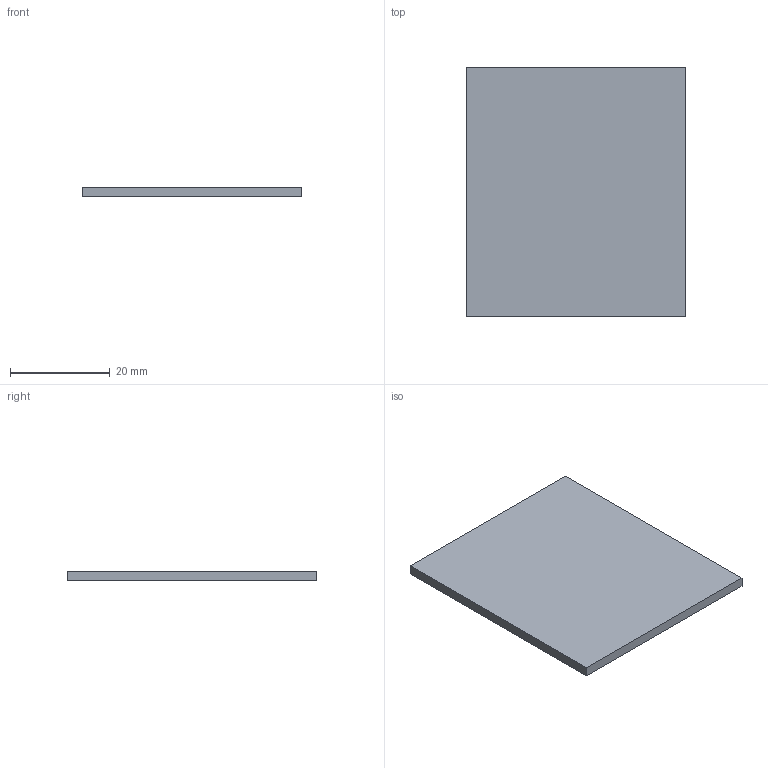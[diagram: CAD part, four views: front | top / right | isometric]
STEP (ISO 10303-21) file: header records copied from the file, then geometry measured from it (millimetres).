
FILE_DESCRIPTION(/* description */ (''),/* implementation_level */ '2;1');
FILE_NAME(/* name */ 'C:\Users\user\Documents\Inventor\Home Ventilator CPAP\bracket.stp',/* time_stamp */ '2020-04-03T13:39:15+02:00',/* author */ ('user'),/* organization */ (''),/* preprocessor_version */ 'ST-DEVELOPER v16.5',/* originating_system */ 'Autodesk Inventor 2017',/* authorisation */ '');
FILE_SCHEMA (('AUTOMOTIVE_DESIGN { 1 0 10303 214 3 1 1 }'));
Length unit declared in the file: millimetre
Products named in the file (1): bracket
Bounding box: 44 x 50 x 2 mm (x, y, z)
Volume: 4400 mm3; surface area: 4776 mm2
Topology: 1 solids, 1 shells, 6 faces, 12 edges, 8 vertices
Faces by surface type: plane 6
Entity records: 186 total; most frequent: CARTESIAN_POINT 27, DIRECTION 26, ORIENTED_EDGE 24, LINE 12, VECTOR 12, EDGE_CURVE 12, VERTEX_POINT 8, AXIS2_PLACEMENT_3D 7
